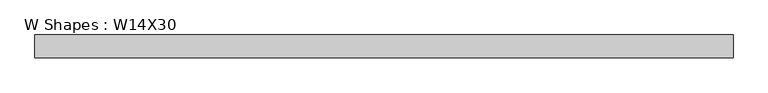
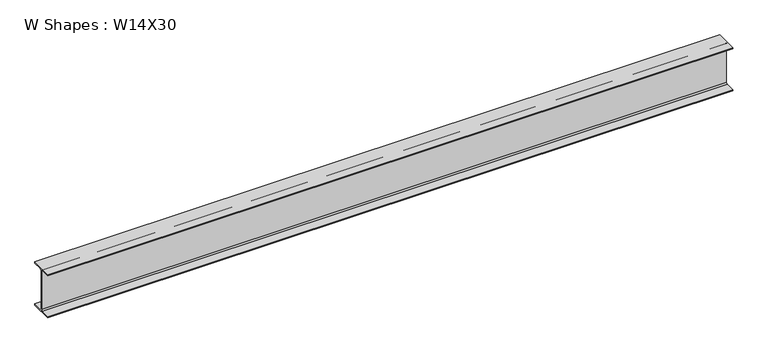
"""IFC4 building model written with IfcOpenShell, lengths in millimetres: beam geometry, W Shapes : W14X30."""

import ifcopenshell
import ifcopenshell.guid

model = None  # the IFC model being written
_history = None  # IfcOwnerHistory: only IFC2X3 demands one
_inside = {}  # id of a spatial element -> (the spatial element, [elements in it])
_under = {}  # id of a project, library or spatial element -> (it, [spatial elements below it])
_declared = {}  # id of a project -> (the project, [libraries it declares])
_typed = {}  # id of a type object -> (the type object, [elements of that type])
_made_of = {}  # id of a material, layer set ... -> (it, [elements and type objects made of it])


def new_model(schema):
    """Start an empty IFC model of exactly this schema.

    Asked for "IFC4X3", IfcOpenShell would pick the latest addendum, in which some entities
    have other attributes; the version numbers below select the first issue.
    IFC2X3 requires an IfcOwnerHistory on every rooted entity: one is made here for all.
    """
    global model, _history
    if schema == "IFC4X3":
        model = ifcopenshell.file(schema_version=(4, 3, 0, 0))
    else:
        model = ifcopenshell.file(schema=schema)
    _inside.clear()
    _under.clear()
    _declared.clear()
    _typed.clear()
    _made_of.clear()
    _history = None
    if model.schema == "IFC2X3":
        org = make("IfcOrganization", Name="unknown")
        user = make(
            "IfcPersonAndOrganization",
            ThePerson=make("IfcPerson", FamilyName="unknown"),
            TheOrganization=org,
        )
        app = make(
            "IfcApplication",
            ApplicationDeveloper=org,
            Version="unknown",
            ApplicationFullName="unknown",
            ApplicationIdentifier="unknown",
        )
        _history = make(
            "IfcOwnerHistory",
            OwningUser=user,
            OwningApplication=app,
            ChangeAction="ADDED",
            CreationDate=0,
        )
    return model


def make(cls, **values):
    """One entity of the class cls with the attributes given. An attribute that is None is left unset."""
    return model.create_entity(
        cls, **{name: value for name, value in values.items() if value is not None}
    )


def rooted(cls, **values):
    """An entity with a GlobalId (a new one), such as an element, a storey or a relation."""
    return make(cls, GlobalId=ifcopenshell.guid.new(), OwnerHistory=_history, **values)


def si_unit(unit_type, name, prefix=None):
    """IfcSIUnit, for example si_unit("LENGTHUNIT", "METRE", prefix="MILLI")."""
    return make("IfcSIUnit", UnitType=unit_type, Prefix=prefix, Name=name)


def assignment(units):
    """IfcUnitAssignment: the units of a project."""
    return None if units is None else make("IfcUnitAssignment", Units=units)


def point(xyz):
    """IfcCartesianPoint."""
    return None if xyz is None else make("IfcCartesianPoint", Coordinates=xyz)


def direction(xyz):
    """IfcDirection."""
    return None if xyz is None else make("IfcDirection", DirectionRatios=xyz)


def frame(location, z_axis=None, x_axis=None):
    """IfcAxis2Placement3D, a coordinate frame: its origin and axes. An axis left out is left unset."""
    return make(
        "IfcAxis2Placement3D",
        Location=point(location),
        Axis=direction(z_axis),
        RefDirection=direction(x_axis),
    )


def frame_2d(location, x_axis=None):
    """IfcAxis2Placement2D, a coordinate frame in the plane: its origin and x axis."""
    return make(
        "IfcAxis2Placement2D", Location=point(location), RefDirection=direction(x_axis)
    )


def origin():
    """The frame at (0, 0, 0) with its axes left unset."""
    return frame((0.0, 0.0, 0.0))


def place(relative_to, where):
    """IfcLocalPlacement: puts the frame where relative to a parent placement (None: the world)."""
    return make(
        "IfcLocalPlacement", PlacementRelTo=relative_to, RelativePlacement=where
    )


def context(
    kind, dimensions, precision=None, world=None, true_north=None, identifier=None
):
    """IfcGeometricRepresentationContext, for example the 3D "Model" context."""
    return make(
        "IfcGeometricRepresentationContext",
        ContextIdentifier=identifier,
        ContextType=kind,
        CoordinateSpaceDimension=dimensions,
        Precision=precision,
        WorldCoordinateSystem=world,
        TrueNorth=true_north,
    )


def project(units=None, contexts=None):
    """IfcProject with its units and contexts."""
    return rooted(
        "IfcProject",
        Name="project",
        RepresentationContexts=contexts,
        UnitsInContext=assignment(units),
    )


def spatial(cls, under=None, at=None, **own):
    """A site, building, storey or space (cls), placed at a placement, below another one or the project."""
    s = rooted(cls, ObjectPlacement=at, **own)
    if under is not None:
        _under.setdefault(under.id(), (under, []))[1].append(s)
    return s


def polyline(points):
    """IfcPolyline through the points."""
    return make("IfcPolyline", Points=[point(p) for p in points])


def circle_curve(where, radius):
    """IfcCircle in the frame where."""
    return make("IfcCircle", Position=where, Radius=radius)


def trimmed(basis, trim1, trim2, sense, master):
    """IfcTrimmedCurve: the piece of a basis curve between two trims."""
    return make(
        "IfcTrimmedCurve",
        BasisCurve=basis,
        Trim1=trim1,
        Trim2=trim2,
        SenseAgreement=sense,
        MasterRepresentation=master,
    )


def segment(curve, same_sense, transition):
    """IfcCompositeCurveSegment."""
    return make(
        "IfcCompositeCurveSegment",
        Transition=transition,
        SameSense=same_sense,
        ParentCurve=curve,
    )


def composite_curve(segments, self_intersect=None):
    """IfcCompositeCurve: segments joined end to end."""
    return make("IfcCompositeCurve", Segments=segments, SelfIntersect=self_intersect)


def outline(outer, holes=None, kind="AREA"):
    """IfcArbitraryClosedProfileDef: a profile drawn as a closed curve; with holes, ...WithVoids."""
    if holes is None:
        return make("IfcArbitraryClosedProfileDef", ProfileType=kind, OuterCurve=outer)
    return make(
        "IfcArbitraryProfileDefWithVoids",
        ProfileType=kind,
        OuterCurve=outer,
        InnerCurves=holes,
    )


def extrude(swept, where, along, depth):
    """IfcExtrudedAreaSolid: the profile swept, set in the frame where, extruded along a direction by depth."""
    return make(
        "IfcExtrudedAreaSolid",
        SweptArea=swept,
        Position=where,
        ExtrudedDirection=direction(along),
        Depth=depth,
    )


def shape(context_of_items, identifier, shape_type, items):
    """IfcShapeRepresentation: the items that make up one representation, for example the "Body"."""
    return make(
        "IfcShapeRepresentation",
        ContextOfItems=context_of_items,
        RepresentationIdentifier=identifier,
        RepresentationType=shape_type,
        Items=items,
    )


def source(mapping_origin, context_of_items, identifier, shape_type, items):
    """IfcRepresentationMap: a shape defined once, which mapped items show again and again."""
    return make(
        "IfcRepresentationMap",
        MappingOrigin=mapping_origin,
        MappedRepresentation=shape(context_of_items, identifier, shape_type, items),
    )


def transform(
    local_origin,
    x_axis=None,
    y_axis=None,
    z_axis=None,
    scale=None,
    scale2=None,
    scale3=None,
    uniform=True,
):
    """IfcCartesianTransformationOperator3D, or its non-uniform kind. x_axis, y_axis, z_axis: its Axis1, 2, 3."""
    if uniform:
        return make(
            "IfcCartesianTransformationOperator3D",
            Axis1=direction(x_axis),
            Axis2=direction(y_axis),
            LocalOrigin=point(local_origin),
            Scale=scale,
            Axis3=direction(z_axis),
        )
    return make(
        "IfcCartesianTransformationOperator3DnonUniform",
        Axis1=direction(x_axis),
        Axis2=direction(y_axis),
        LocalOrigin=point(local_origin),
        Scale=scale,
        Axis3=direction(z_axis),
        Scale2=scale2,
        Scale3=scale3,
    )


def mapped(mapping_source, mapping_target):
    """IfcMappedItem: shows the shape of a source again, moved by a transform."""
    return make(
        "IfcMappedItem", MappingSource=mapping_source, MappingTarget=mapping_target
    )


def made_of(thing, what):
    """Note that an element or type object is made of a material, layer set ...; save() writes the relation."""
    if what is not None:
        _made_of.setdefault(what.id(), (what, []))[1].append(thing)
    return thing


def element(
    cls,
    number,
    at=None,
    inside=None,
    cuts=None,
    type_object=None,
    material=None,
    context=None,
    identifier="Body",
    shape_type=None,
    held_by="IfcProductDefinitionShape",
    body=None,
    shapes=None,
    **own,
):
    """One element of the class cls, such as IfcWall. Its Tag is "e" and its number.

    at: its placement. inside: the storey or other place that contains it. cuts: it is an
    opening in that element (IfcRelVoidsElement). A single representation is given by context,
    identifier, shape_type and body (its items); several are given by shapes. held_by: the class
    of the entity that holds the representations. save() writes the other relations.
    """
    e = rooted(cls, Tag="e%d" % number, ObjectPlacement=at, **own)
    if body is not None:
        shapes = [shape(context, identifier, shape_type, body)]
    if shapes is not None:
        e.Representation = make(held_by, Representations=shapes)
    if inside is not None:
        _inside.setdefault(inside.id(), (inside, []))[1].append(e)
    if cuts is not None:
        rooted(
            "IfcRelVoidsElement", RelatingBuildingElement=cuts, RelatedOpeningElement=e
        )
    if type_object is not None:
        _typed.setdefault(type_object.id(), (type_object, []))[1].append(e)
    return made_of(e, material)


def aggregate(whole, parts):
    """IfcRelAggregates: a whole, such as a stair, and the parts it consists of."""
    return rooted("IfcRelAggregates", RelatingObject=whole, RelatedObjects=parts)


def save(model, path):
    """Write the relations noted so far, then the file.

    IfcRelAggregates (storeys below a building ...), IfcRelContainedInSpatialStructure (elements
    in a storey), IfcRelDefinesByType, IfcRelAssociatesMaterial and IfcRelDeclares: one each for
    every whole, place, type object, material and project.
    """
    for whole, parts in _under.values():
        aggregate(whole, parts)
    for where, things in _inside.values():
        rooted(
            "IfcRelContainedInSpatialStructure",
            RelatedElements=things,
            RelatingStructure=where,
        )
    for kind, things in _typed.values():
        rooted("IfcRelDefinesByType", RelatedObjects=things, RelatingType=kind)
    for what, things in _made_of.values():
        rooted("IfcRelAssociatesMaterial", RelatedObjects=things, RelatingMaterial=what)
    for by, libraries in _declared.values():
        rooted("IfcRelDeclares", RelatingContext=by, RelatedDefinitions=libraries)
    model.write(path)


def w_shapes_w14x30_1dc52f8a(model_context):
    return source(origin(), model_context, "Body", "SweptSolid", [
        extrude(outline(composite_curve([segment(polyline([(85.471, -165.481), (85.471, -175.26), (-85.471, -175.26), (-85.471, -165.481), (-13.589, -165.481)]), True, "CONTINUOUS"), segment(trimmed(circle_curve(frame_2d((-13.589, -155.321)), 10.16), [point((-13.589, -165.481))], [point((-3.429, -155.321))], True, "CARTESIAN"), True, "CONTINUOUS"), segment(polyline([(-3.429, -155.321), (-3.429, 155.321)]), True, "CONTINUOUS"), segment(trimmed(circle_curve(frame_2d((-13.589, 155.321)), 10.16), [point((-3.429, 155.321))], [point((-13.589, 165.481))], True, "CARTESIAN"), True, "CONTINUOUS"), segment(polyline([(-13.589, 165.481), (-85.471, 165.481), (-85.471, 175.26), (85.471, 175.26), (85.471, 165.481), (13.589, 165.481)]), True, "CONTINUOUS"), segment(trimmed(circle_curve(frame_2d((13.589, 155.321)), 10.16), [point((13.589, 165.481))], [point((3.429, 155.321))], True, "CARTESIAN"), True, "CONTINUOUS"), segment(polyline([(3.429, 155.321), (3.429, -155.321)]), True, "CONTINUOUS"), segment(trimmed(circle_curve(frame_2d((13.589, -155.321)), 10.16), [point((3.429, -155.321))], [point((13.589, -165.481))], True, "CARTESIAN"), True, "CONTINUOUS"), segment(polyline([(13.589, -165.481), (85.471, -165.481)]), True, "CONTINUOUS")], self_intersect=False)), frame((-2616.99375, 0.0, 0.0), z_axis=(1.0, 0.0, 0.0), x_axis=(0.0, 1.0, 0.0)), (0.0, 0.0, 1.0), 5259.3875),
    ])


if __name__ == "__main__":
    model = new_model("IFC4")
    model_context = context("Model", 3, world=origin())
    ifc_project = project(units=[si_unit("LENGTHUNIT", "METRE", prefix="MILLI")], contexts=[model_context])
    site = spatial("IfcSite", under=ifc_project)
    building = spatial("IfcBuilding", under=site)
    placement = place(None, origin())
    w_shapes_w14x30_shape = w_shapes_w14x30_1dc52f8a(model_context)
    element("IfcBeam", 1, ObjectType="W Shapes : W14X30", at=placement, inside=building, context=model_context, shape_type="MappedRepresentation", body=[
        mapped(w_shapes_w14x30_shape, transform((0.0, 0.0, 0.0), x_axis=(1.0, 0.0, 0.0), y_axis=(0.0, 1.0, 0.0), z_axis=(0.0, 0.0, 1.0))),
    ])
    save(model, "model.ifc")
